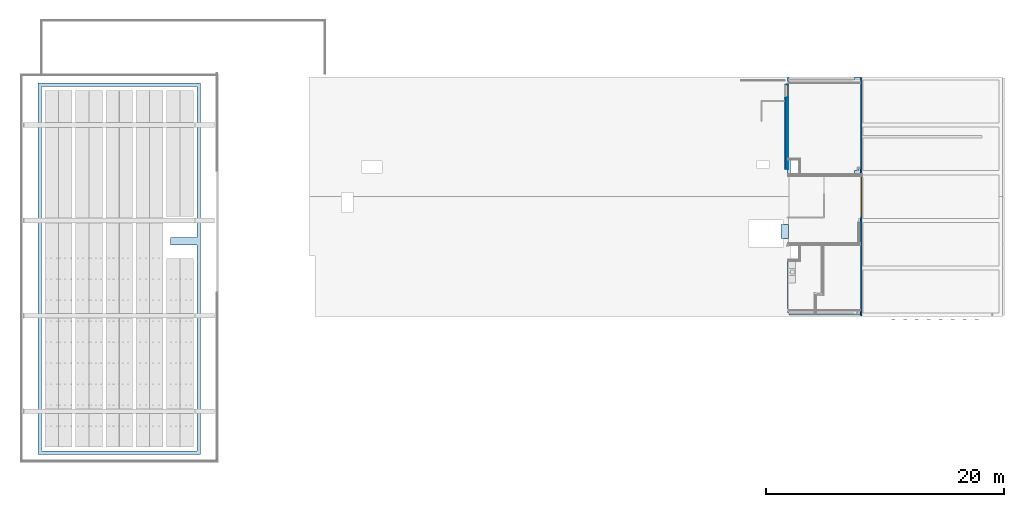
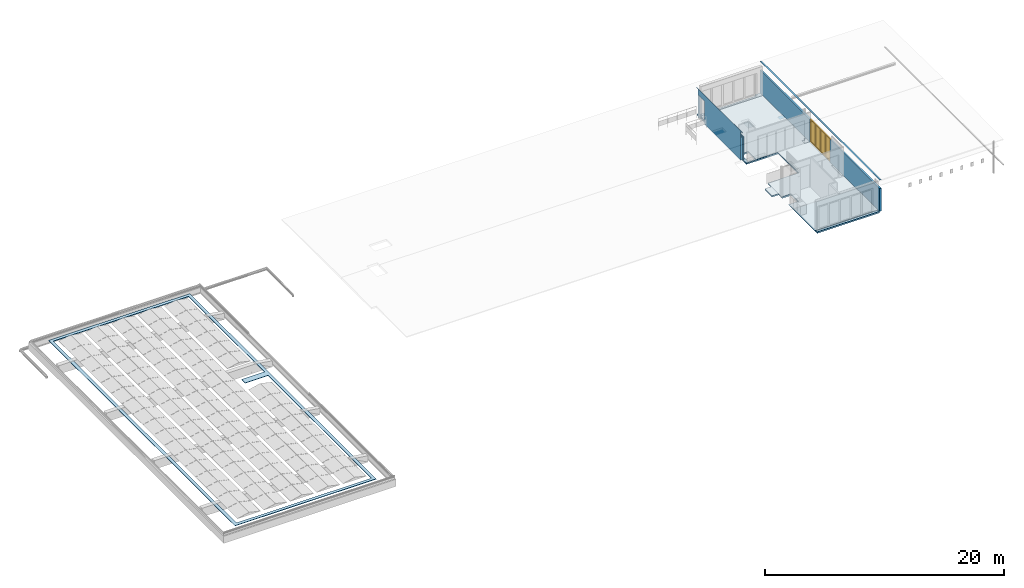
# One storey, part 7 of 25: 4 slabs, 3 walls, 1 window, 9 openings.
"""IFC2X3 building model written with IfcOpenShell, lengths in millimetres."""

from ifc_helpers import new_model, entity, si_unit, converted_unit, derived_unit, money_unit, direction, frame, origin_with_axes, place, context, subcontext, project, spatial, open_shell, faceted_brep, surface_model, material, type_object, element, fill, save


model = new_model("IFC2X3")

# Units and contexts
model_context = context("Model", 3, precision=0.01, world=origin_with_axes(), true_north=direction((0.0, 1.0)))
body_context = subcontext(model_context, "Body", "Model", "MODEL_VIEW")
ifc_project = project(units=[si_unit("LENGTHUNIT", "METRE", prefix="MILLI"), si_unit("AREAUNIT", "SQUARE_METRE"), si_unit("VOLUMEUNIT", "CUBIC_METRE"), converted_unit("PLANEANGLEUNIT", "DEGREE", entity("IfcPlaneAngleMeasure", 0.0174532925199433), si_unit("PLANEANGLEUNIT", "RADIAN"), dimensions=[0, 0, 0, 0, 0, 0, 0]), money_unit("EUR"), converted_unit("TIMEUNIT", "Year", entity("IfcTimeMeasure", 31557600.0), si_unit("TIMEUNIT", "SECOND"), dimensions=[0, 0, 1, 0, 0, 0, 0]), si_unit("MASSUNIT", "GRAM", prefix="KILO"), si_unit("THERMODYNAMICTEMPERATUREUNIT", "DEGREE_CELSIUS"), si_unit("LUMINOUSINTENSITYUNIT", "LUMEN"), si_unit("ENERGYUNIT", "JOULE", prefix="MEGA"), derived_unit("THERMALCONDUCTANCEUNIT", [(si_unit("POWERUNIT", "WATT"), 1), (si_unit("LENGTHUNIT", "METRE"), -1), (si_unit("THERMODYNAMICTEMPERATUREUNIT", "KELVIN"), -1)]), derived_unit("SPECIFICHEATCAPACITYUNIT", [(si_unit("ENERGYUNIT", "JOULE"), 1), (si_unit("MASSUNIT", "GRAM", prefix="KILO"), -1), (si_unit("THERMODYNAMICTEMPERATUREUNIT", "KELVIN"), -1)]), derived_unit("MASSDENSITYUNIT", [(si_unit("MASSUNIT", "GRAM", prefix="KILO"), 1), (si_unit("VOLUMEUNIT", "CUBIC_METRE"), -1)])], contexts=[model_context])

# Site, building, storey
site_placement = place(None, origin_with_axes())
site = spatial("IfcSite", under=ifc_project, at=site_placement, Name="<site naam>", CompositionType="ELEMENT")
building_placement = place(site_placement, origin_with_axes())
building = spatial("IfcBuilding", under=site, at=building_placement, Name="<Naam gebouw>", CompositionType="ELEMENT")
storey_placement = place(building_placement, frame((0.0, 0.0, 9563.0), z_axis=(0.0, 0.0, 1.0), x_axis=(1.0, 0.0, 0.0)))
storey = spatial("IfcBuildingStorey", under=building, at=storey_placement, Name="03 3e tussenverdieping", CompositionType="ELEMENT", Elevation=9563.0)

# Slab, opening
ifc_material_1 = material(Name="Zwevende dekvloer")
slab_type_1 = type_object("IfcSlabType", Name="Zwevende dekvloer 30", PredefinedType="NOTDEFINED")
slab_1_placement = place(storey_placement, frame((52064.99997477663, 269.0000000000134, 0.0), z_axis=(0.0, 0.0, 1.0), x_axis=(1.0, 0.0, 0.0)))
slab_1 = element("IfcSlab", 1, at=slab_1_placement, inside=storey, type_object=slab_type_1, material=ifc_material_1, Name="23_Vloer_Zwevende", PredefinedType="NOTDEFINED", context=body_context, shape_type="Brep", body=[
    faceted_brep([(6092.782828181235, 12076.00007576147, 0.0), (6092.782828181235, 12076.00007576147, -29.99999999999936), (6092.782951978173, 19271.00019144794, -29.99999999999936), (6092.782951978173, 19271.00019144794, 0.0), (5922.999839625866, 12076.00007576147, 0.0), (5922.999839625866, 12076.00007576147, -29.99999999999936), (70.00007134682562, 19461.99999999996, -29.99999999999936), (110.0000083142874, 19461.99999999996, -29.99999999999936), (110.0000083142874, 19271.00019144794, -29.99999999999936), (5922.999839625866, 11905.99989679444, -29.99999999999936), (5609.999917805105, 11905.99989679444, -29.99999999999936), (5609.999917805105, 11456.00001814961, -29.99999999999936), (6110.00013741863, 11456.00001814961, -29.99999999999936), (6110.00013741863, 7556.000103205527, -29.99999999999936), (5934.999959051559, 7556.000103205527, -29.99999999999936), (5934.999959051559, 5816.000000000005, -29.99999999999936), (6110.00013741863, 5816.000000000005, -29.99999999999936), (6110.00013741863, 0.0, -29.99999999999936), (0.0, 0.0, -29.99999999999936), (0.0, 4416.000092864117, -29.99999999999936), (960.0001084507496, 4416.000092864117, -29.99999999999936), (960.0001084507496, 5665.999916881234, -29.99999999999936), (70.00007134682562, 5665.999916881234, -29.99999999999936), (70.00007134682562, 8005.999981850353, -29.99999999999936), (3029.621820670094, 8005.999981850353, -29.99999999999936), (3029.621820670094, 11456.00001814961, -29.99999999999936), (960.0001084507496, 11456.00001814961, -29.99999999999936), (960.0001084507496, 12805.99994409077, -29.99999999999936), (70.00007134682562, 12805.99994409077, -29.99999999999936), (110.0000083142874, 19271.00019144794, 0.0), (110.0000083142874, 19461.99999999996, 0.0), (70.00007134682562, 19461.99999999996, 0.0), (70.00007134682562, 12805.99994409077, 0.0), (960.0001084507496, 12805.99994409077, 0.0), (960.0001084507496, 11456.00001814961, 0.0), (3029.621820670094, 11456.00001814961, 0.0), (3029.621820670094, 8005.999981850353, 0.0), (70.00007134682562, 8005.999981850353, 0.0), (70.00007134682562, 5665.999916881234, 0.0), (960.0001084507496, 5665.999916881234, 0.0), (960.0001084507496, 4416.000092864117, 0.0), (0.0, 4416.000092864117, 0.0), (0.0, 0.0, 0.0), (6110.00013741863, 0.0, 0.0), (6110.00013741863, 5816.000000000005, 0.0), (5934.999959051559, 5816.000000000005, 0.0), (5934.999959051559, 7556.000103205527, 0.0), (6110.00013741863, 7556.000103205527, 0.0), (6110.00013741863, 11456.00001814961, 0.0), (5609.999917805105, 11456.00001814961, 0.0), (5609.999917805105, 11905.99989679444, 0.0), (5922.999839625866, 11905.99989679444, 0.0)], [[[0, 1, 2, 3]], [[1, 0, 4, 5]], [[6, 7, 8, 2, 1, 5, 9, 10, 11, 12, 13, 14, 15, 16, 17, 18, 19, 20, 21, 22, 23, 24, 25, 26, 27, 28]], [[2, 8, 29, 3]], [[0, 3, 29, 30, 31, 32, 33, 34, 35, 36, 37, 38, 39, 40, 41, 42, 43, 44, 45, 46, 47, 48, 49, 50, 51, 4]], [[5, 4, 51, 9]], [[6, 31, 30, 7]], [[7, 30, 29, 8]], [[9, 51, 50, 10]], [[10, 50, 49, 11]], [[11, 49, 48, 12]], [[12, 48, 47, 13]], [[13, 47, 46, 14]], [[14, 46, 45, 15]], [[15, 45, 44, 16]], [[16, 44, 43, 17]], [[17, 43, 42, 18]], [[18, 42, 41, 19]], [[19, 41, 40, 20]], [[20, 40, 39, 21]], [[21, 39, 38, 22]], [[22, 38, 37, 23]], [[23, 37, 36, 24]], [[24, 36, 35, 25]], [[25, 35, 34, 26]], [[26, 34, 33, 27]], [[27, 33, 32, 28]], [[28, 32, 31, 6]]]),
])
opening_1_placement = place(slab_1_placement, frame((-52064.99997477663, -269.0000000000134, -9563.0), z_axis=(0.0, 0.0, 1.0), x_axis=(1.0, 0.0, 0.0)))
element("IfcOpeningElement", 2, at=opening_1_placement, cuts=slab_1, Name="23_Opening_", context=body_context, shape_type="Brep", body=[
    faceted_brep([(52135.00000000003, 4935.000000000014, 9593.0), (52135.00000000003, 5935.000000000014, 9593.0), (52135.00000000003, 5935.000000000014, 9503.000000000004), (52135.00000000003, 4935.000000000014, 9503.000000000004), (52735.00000000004, 4935.000000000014, 9593.0), (52735.00000000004, 5935.000000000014, 9593.0), (52735.00000000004, 5935.000000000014, 9503.000000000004), (52735.00000000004, 4935.000000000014, 9503.000000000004)], [[[0, 1, 2, 3]], [[0, 4, 5, 1]], [[1, 5, 6, 2]], [[3, 2, 6, 7]], [[4, 0, 3, 7]], [[5, 4, 7, 6]]]),
])

# Slab, openings
ifc_material_2 = material(Name="beton_gewapend_vloer C")
slab_type_2 = type_object("IfcSlabType", Name="beton_gewapend_vloer C  150", PredefinedType="NOTDEFINED")
slab_2_placement = place(storey_placement, frame((52175.00000000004, 50.04536538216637, -29.99999999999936), z_axis=(0.0, 0.0, 1.0), x_axis=(1.0, 0.0, 0.0)))
slab_2 = element("IfcSlab", 3, at=slab_2_placement, inside=storey, type_object=slab_type_2, material=ifc_material_2, Name="23_Vloer_beton_gewapend_vloer", PredefinedType="NOTDEFINED", context=body_context, shape_type="Brep", body=[
    faceted_brep([(0.0, 0.0, 0.0), (0.0, 0.0, -150.0000000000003), (5999.999999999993, 0.0, -150.0000000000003), (5999.999999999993, 0.0, 0.0), (0.0, 11674.95463461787, 0.0), (0.0, 11674.95463461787, -150.0000000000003), (-110.0000000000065, 11674.95463461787, -150.0000000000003), (-110.0000000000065, 19949.95463461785, -150.0000000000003), (5999.999999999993, 19949.95463461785, -150.0000000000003), (5999.999999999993, 19949.95463461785, 0.0), (-110.0000000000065, 19949.95463461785, 0.0), (-110.0000000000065, 11674.95463461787, 0.0)], [[[0, 1, 2, 3]], [[4, 5, 1, 0]], [[2, 1, 5, 6, 7, 8]], [[3, 2, 8, 9]], [[4, 0, 3, 9, 10, 11]], [[11, 6, 5, 4]], [[10, 7, 6, 11]], [[9, 8, 7, 10]]]),
])
opening_2_placement = place(slab_2_placement, frame((-52175.00000000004, -50.04536538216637, -9533.000000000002), z_axis=(0.0, 0.0, 1.0), x_axis=(1.0, 0.0, 0.0)))
element("IfcOpeningElement", 4, at=opening_2_placement, cuts=slab_2, Name="23_Opening_", context=body_context, shape_type="Brep", body=[
    faceted_brep([(52325.00000000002, 11875.00000000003, 9683.000000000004), (52325.00000000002, 13075.00000000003, 9683.000000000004), (52325.00000000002, 13075.00000000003, 9233.0), (52325.00000000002, 11875.00000000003, 9233.0), (53025.00000000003, 11875.00000000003, 9683.000000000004), (53025.00000000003, 13075.00000000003, 9683.000000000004), (53025.00000000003, 13075.00000000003, 9233.0), (53025.00000000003, 11875.00000000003, 9233.0)], [[[0, 1, 2, 3]], [[0, 4, 5, 1]], [[1, 5, 6, 2]], [[3, 2, 6, 7]], [[4, 0, 3, 7]], [[5, 4, 7, 6]]]),
])
opening_3_placement = place(slab_2_placement, frame((-52175.00000000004, -50.04536538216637, -9533.000000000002), z_axis=(0.0, 0.0, 1.0), x_axis=(1.0, 0.0, 0.0)))
element("IfcOpeningElement", 5, at=opening_3_placement, cuts=slab_2, Name="23_Opening_", context=body_context, shape_type="Brep", body=[
    faceted_brep([(52175.00000000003, 8275.000000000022, 9683.000000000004), (52175.00000000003, 11725.00000000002, 9683.000000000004), (52175.00000000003, 11725.00000000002, 9233.0), (52175.00000000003, 8275.000000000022, 9233.0), (55142.12178525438, 8275.000000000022, 9683.000000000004), (55142.12178525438, 11725.00000000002, 9683.000000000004), (55142.12178525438, 11725.00000000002, 9233.0), (55142.12178525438, 8275.000000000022, 9233.0)], [[[0, 1, 2, 3]], [[0, 4, 5, 1]], [[1, 5, 6, 2]], [[3, 2, 6, 7]], [[4, 0, 3, 7]], [[5, 4, 7, 6]]]),
])
opening_4_placement = place(slab_2_placement, frame((-52175.00000000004, -50.04536538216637, -9533.000000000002), z_axis=(0.0, 0.0, 1.0), x_axis=(1.0, 0.0, 0.0)))
element("IfcOpeningElement", 6, at=opening_4_placement, cuts=slab_2, Name="23_Opening_", context=body_context, shape_type="Brep", body=[
    faceted_brep([(52135.00000000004, 4685.000000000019, 9683.000000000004), (52135.00000000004, 5935.000000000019, 9683.000000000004), (52135.00000000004, 5935.000000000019, 9233.0), (52135.00000000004, 4685.000000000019, 9233.0), (53025.00000000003, 4685.000000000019, 9683.000000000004), (53025.00000000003, 5935.000000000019, 9683.000000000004), (53025.00000000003, 5935.000000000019, 9233.0), (53025.00000000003, 4685.000000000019, 9233.0)], [[[0, 1, 2, 3]], [[0, 4, 5, 1]], [[1, 5, 6, 2]], [[3, 2, 6, 7]], [[4, 0, 3, 7]], [[5, 4, 7, 6]]]),
])
opening_5_placement = place(slab_2_placement, frame((-52175.00000000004, -50.04536538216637, -9533.000000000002), z_axis=(0.0, 0.0, 1.0), x_axis=(1.0, 0.0, 0.0)))
element("IfcOpeningElement", 7, at=opening_5_placement, cuts=slab_2, Name="23_Opening_", context=body_context, shape_type="Brep", body=[
    faceted_brep([(52175.00000000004, 19825.00000000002, 9533.000000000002), (52175.00000000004, 19999.99992132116, 9533.000000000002), (52175.00000000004, 19999.99992132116, 9383.0), (52175.00000000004, 19825.00000000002, 9383.0), (57674.9999269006, 19825.00000000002, 9533.000000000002), (57674.9999269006, 19999.99992132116, 9533.000000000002), (57674.9999269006, 19999.99992132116, 9383.0), (57674.9999269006, 19825.00000000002, 9383.0)], [[[0, 1, 2, 3]], [[0, 4, 5, 1]], [[1, 5, 6, 2]], [[3, 2, 6, 7]], [[4, 0, 3, 7]], [[5, 4, 7, 6]]]),
])
opening_6_placement = place(slab_2_placement, frame((-52175.00000000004, -50.04536538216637, -9533.000000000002), z_axis=(0.0, 0.0, 1.0), x_axis=(1.0, 0.0, 0.0)))
element("IfcOpeningElement", 8, at=opening_6_placement, cuts=slab_2, Name="23_Opening_", context=body_context, shape_type="Brep", body=[
    faceted_brep([(52175.00000000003, 20000.00000000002, 9533.000000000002), (52175.00000000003, 20290.62140104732, 9533.000000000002), (52175.00000000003, 20290.62140104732, 9383.0), (52175.00000000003, 20000.00000000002, 9383.0), (57674.99992690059, 20000.00000000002, 9533.000000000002), (57674.99992690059, 20290.62140104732, 9533.000000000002), (57674.99992690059, 20290.62140104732, 9383.0), (57674.99992690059, 20000.00000000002, 9383.0)], [[[0, 1, 2, 3]], [[0, 4, 5, 1]], [[1, 5, 6, 2]], [[3, 2, 6, 7]], [[4, 0, 3, 7]], [[5, 4, 7, 6]]]),
])

# Slabs
slab_3_placement = place(storey_placement, frame((51500.00000000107, 6475.000000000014, 0.0), z_axis=(0.0, 0.0, 1.0), x_axis=(1.0, 0.0, 0.0)))
element("IfcSlab", 9, at=slab_3_placement, inside=storey, type_object=slab_type_2, material=ifc_material_2, Name="23_Vloer_beton_gewapend_vloer", PredefinedType="NOTDEFINED", context=body_context, shape_type="Brep", body=[
    faceted_brep([(0.0, 0.0, 0.0), (0.0, 0.0, -150.0000000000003), (634.9999999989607, 0.0, -150.0000000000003), (634.9999999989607, 0.0, 0.0), (0.0, 1200.0, 0.0), (0.0, 1200.0, -150.0000000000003), (634.9999999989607, 1200.0, -150.0000000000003), (634.9999999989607, 1200.0, 0.0)], [[[0, 1, 2, 3]], [[4, 5, 1, 0]], [[2, 1, 5, 6]], [[3, 2, 6, 7]], [[4, 0, 3, 7]], [[7, 6, 5, 4]]]),
])
ifc_material_3 = material(Name="ALG - ALGEMEEN")
slab_type_3 = type_object("IfcSlabType", Name="ALG - ALGEMEEN 45", PredefinedType="NOTDEFINED")
slab_4_placement = place(storey_placement, frame((2820.499997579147, 19550.88304854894, -912.2832737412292), z_axis=(0.0, 0.0, 1.0), x_axis=(1.0, 0.0, 0.0)))
element("IfcSlab", 10, at=slab_4_placement, inside=storey, type_object=slab_type_3, material=ifc_material_3, Name="47_Vloer_ALG", PredefinedType="NOTDEFINED", context=body_context, shape_type="Brep", body=[
    faceted_brep([(0.0, 0.0, 45.00000000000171), (0.0, 0.0, 0.0), (-13641.04965521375, 0.0, 0.0), (-13641.04965521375, 0.0, 45.00000000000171), (0.0, -31199.94177173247, 45.00000000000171), (0.0, -31199.94177173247, 0.0), (-13641.04965521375, -31199.94177173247, 0.0), (-13341.02557208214, -299.9580797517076, 0.0), (-13341.02557208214, -30899.96328707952, 0.0), (-299.9744230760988, -30899.96328707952, 0.0), (-299.9744230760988, -13600.00336167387, 0.0), (-2520.499997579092, -13600.00336167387, 0.0), (-2520.499997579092, -12999.9830485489, 0.0), (-299.9744230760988, -12999.9830485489, 0.0), (-299.9744230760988, -299.9580797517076, 0.0), (-13641.04965521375, -31199.94177173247, 45.00000000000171), (-299.9744230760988, -30899.96328707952, 45.00000000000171), (-13341.02557208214, -30899.96328707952, 45.00000000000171), (-13341.02557208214, -299.9580797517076, 45.00000000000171), (-299.9744230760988, -299.9580797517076, 45.00000000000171), (-299.9744230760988, -12999.9830485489, 45.00000000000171), (-2520.499997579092, -12999.9830485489, 45.00000000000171), (-2520.499997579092, -13600.00336167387, 45.00000000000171), (-299.9744230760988, -13600.00336167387, 45.00000000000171)], [[[0, 1, 2, 3]], [[4, 5, 1, 0]], [[2, 1, 5, 6], [7, 8, 9, 10, 11, 12, 13, 14]], [[3, 2, 6, 15]], [[4, 0, 3, 15], [16, 17, 18, 19, 20, 21, 22, 23]], [[15, 6, 5, 4]], [[17, 8, 7, 18]], [[16, 9, 8, 17]], [[23, 10, 9, 16]], [[22, 11, 10, 23]], [[21, 12, 11, 22]], [[20, 13, 12, 21]], [[19, 14, 13, 20]], [[18, 7, 14, 19]]]),
])

# Wall, opening
ifc_material_4 = material(Name="beton_gewapend C")
wall_type_1 = type_object("IfcWallType", Name="beton 160 160", PredefinedType="NOTDEFINED")
wall_1_placement = place(storey_placement, frame((51985.00000000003, 19685.91067811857, 0.0), z_axis=(0.0, 0.0, 1.0), x_axis=(0.0, -1.0, 0.0)))
wall_1 = element("IfcWall", 11, at=wall_1_placement, inside=storey, type_object=wall_type_1, material=ifc_material_4, Name="22_Binnenwand_beton", context=body_context, shape_type="Brep", body=[
    faceted_brep([(274.9999999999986, 0.0, 2327.0), (274.9999999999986, -129.9999999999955, 2327.0), (7410.910678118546, -129.9999999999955, 2327.0), (7410.910678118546, 0.0, 2327.0), (274.9999999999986, -159.9999999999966, 2927.0), (274.9999999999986, -129.9999999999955, 2927.0), (274.9999999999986, 0.0, 0.0), (274.9999999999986, -159.9999999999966, 0.0), (7685.910678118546, -129.9999999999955, 2987.000014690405), (7685.910678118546, -129.9999999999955, 2927.0), (7410.910678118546, -129.9999999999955, 2927.0), (0.0, -129.9999999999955, 2927.0), (0.0, -129.9999999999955, 2987.000014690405), (7410.910678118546, -159.9999999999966, 2927.0), (7410.910678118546, -159.9999999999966, 0.0), (7410.910678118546, 0.0, 0.0), (0.0, -159.9999999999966, 2927.0), (7685.910678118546, -159.9999999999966, 2927.0), (7685.910678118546, -160.0000000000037, 2987.000014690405), (0.0, -159.9999999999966, 2987.000014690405)], [[[0, 1, 2, 3]], [[4, 5, 1, 0, 6, 7]], [[8, 9, 10, 2, 1, 5, 11, 12]], [[13, 14, 15, 3, 2, 10]], [[6, 0, 3, 15]], [[5, 4, 16, 11]], [[7, 6, 15, 14]], [[7, 14, 13, 17, 18, 19, 16, 4]], [[8, 18, 17, 9]], [[17, 13, 10, 9]], [[19, 12, 11, 16]], [[12, 19, 18, 8]]]),
])
opening_7_placement = place(wall_1_placement, frame((817.8526862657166, 0.0, 0.0), z_axis=(0.0, 0.0, 1.0), x_axis=(1.0, 0.0, 0.0)))
element("IfcOpeningElement", 12, at=opening_7_placement, cuts=wall_1, Name="22_BI-A-06 sp_305", context=body_context, shape_type="Brep", body=[
    faceted_brep([(516.9999999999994, 0.9999999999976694, 2366.999999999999), (516.9999999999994, 0.9999999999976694, 0.0), (-516.9999999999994, 0.9999999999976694, 0.0), (-516.9999999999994, 0.9999999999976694, 2366.999999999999), (516.9999999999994, -160.9999999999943, 2366.999999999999), (516.9999999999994, -160.9999999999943, 0.0), (-516.9999999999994, -160.9999999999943, 0.0), (-516.9999999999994, -160.9999999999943, 2366.999999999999)], [[[0, 1, 2, 3]], [[4, 5, 1, 0]], [[5, 6, 2, 1]], [[6, 7, 3, 2]], [[7, 4, 0, 3]], [[6, 5, 4, 7]]]),
])

# Wall, opening, window
ifc_material_5 = material(Name="beton")
wall_type_2 = type_object("IfcWallType", Name="beton 160", PredefinedType="NOTDEFINED")
wall_2_placement = place(storey_placement, frame((58317.78284470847, 20000.00000000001, 0.0), z_axis=(0.0, 0.0, 1.0), x_axis=(0.0, -1.0, 0.0)))
wall_2 = element("IfcWall", 13, at=wall_2_placement, inside=storey, type_object=wall_type_2, material=ifc_material_5, Name="22_Binnenwand_beton", context=body_context, shape_type="Brep", body=[
    faceted_brep([(0.0, 0.0, 0.0), (0.0, -159.9999999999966, 0.0), (0.0, -159.9999999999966, 2327.000000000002), (0.0, 0.0, 2327.000000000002), (20000.0, 0.0, 0.0), (20000.0, -160.0000000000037, 0.0), (20000.0, -160.0000000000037, 2327.000000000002), (20000.0, 0.0, 2327.000000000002), (5085.249999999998, 0.0, 2327.000000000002), (4865.25, 0.0, 2327.000000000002)], [[[0, 1, 2, 3]], [[4, 5, 1, 0]], [[1, 5, 6, 2]], [[7, 8, 9, 3, 2, 6]], [[3, 9, 8, 7, 4, 0]], [[5, 4, 7, 6]]]),
    faceted_brep([(0.0, 0.0, 3206.999999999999), (20000.0, 0.0, 3206.999999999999), (20000.0, 0.0, 3177.0), (0.0, 0.0, 3177.0), (20000.0, -160.0000000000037, 3206.999999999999), (0.0, -159.9999999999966, 3206.999999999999), (20000.0, -160.0000000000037, 3177.0), (0.0, -159.9999999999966, 3177.0)], [[[0, 1, 2, 3]], [[4, 1, 0, 5]], [[1, 4, 6, 2]], [[2, 6, 7, 3]], [[5, 0, 3, 7]], [[4, 5, 7, 6]]]),
])
opening_8_placement = place(wall_2_placement, frame((9999.999999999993, 0.0, 0.0), z_axis=(0.0, 0.0, 1.0), x_axis=(1.0, 0.0, 0.0)))
opening_8 = element("IfcOpeningElement", 14, at=opening_8_placement, cuts=wall_2, Name="22_BI-E-14_305", context=body_context, shape_type="Brep", body=[
    faceted_brep([(-1725.0, -160.9999999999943, 2366.999999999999), (-1725.0, -160.9999999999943, 0.0), (1725.0, -161.0000000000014, 0.0), (1725.0, -161.0000000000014, 2366.999999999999), (-1725.0, 0.9999999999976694, 2366.999999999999), (-1725.0, 0.9999999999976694, 0.0), (1725.0, 0.999999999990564, 0.0), (1725.0, 0.999999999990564, 2366.999999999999)], [[[0, 1, 2, 3]], [[4, 5, 1, 0]], [[5, 6, 2, 1]], [[6, 7, 3, 2]], [[7, 4, 0, 3]], [[6, 5, 4, 7]]]),
])
window_style = type_object("IfcWindowStyle", Name="Rnx horizontaal 27", ConstructionType="NOTDEFINED", OperationType="USERDEFINED", ParameterTakesPrecedence=False, Sizeable=False)
window_placement = place(opening_8_placement, frame((-1725.0, 0.0, 0.0), z_axis=(0.0, 0.0, 1.0), x_axis=(1.0, 0.0, 0.0)))
window = element("IfcWindow", 15, at=window_placement, inside=storey, type_object=window_style, Name="22_BI-E-14_305", ObjectType="WINDOW", OverallHeight=2367.0, OverallWidth=3450.0, context=body_context, shape_type="SurfaceModel", body=[
    faceted_brep([(0.0, -113.9999999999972, 2327.0), (0.0, 0.0, 2327.0), (0.0, 0.0, 2299.999999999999), (0.0, -113.9999999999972, 2299.999999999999), (3449.999999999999, 0.0, 2327.0), (3449.999999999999, -113.9999999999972, 2327.0), (3449.999999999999, 0.0, 2299.999999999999), (3382.999999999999, 0.0, 2299.999999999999), (2604.249999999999, 0.0, 2299.999999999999), (2537.249999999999, 0.0, 2299.999999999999), (1758.5, 0.0, 2299.999999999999), (1691.5, 0.0, 2299.999999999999), (912.7499999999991, 0.0, 2299.999999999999), (845.7499999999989, 0.0, 2299.999999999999), (67.00000000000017, 0.0, 2299.999999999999), (67.00000000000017, -113.9999999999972, 2299.999999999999), (845.7499999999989, -113.9999999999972, 2299.999999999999), (912.7499999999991, -113.9999999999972, 2299.999999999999), (1691.5, -113.9999999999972, 2299.999999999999), (1758.5, -113.9999999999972, 2299.999999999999), (2537.249999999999, -113.9999999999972, 2299.999999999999), (2604.249999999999, -113.9999999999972, 2299.999999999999), (3382.999999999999, -113.9999999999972, 2299.999999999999), (3449.999999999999, -113.9999999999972, 2299.999999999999)], [[[0, 1, 2, 3]], [[4, 1, 0, 5]], [[1, 4, 6, 7, 8, 9, 10, 11, 12, 13, 14, 2]], [[15, 3, 2, 14]], [[5, 0, 3, 15, 16, 17, 18, 19, 20, 21, 22, 23]], [[4, 5, 23, 6]], [[23, 22, 7, 6]], [[22, 21, 8, 7]], [[21, 20, 9, 8]], [[20, 19, 10, 9]], [[19, 18, 11, 10]], [[18, 17, 12, 11]], [[17, 16, 13, 12]], [[16, 15, 14, 13]]]),
    faceted_brep([(67.00000000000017, -113.9999999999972, 2299.999999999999), (67.00000000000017, 0.0, 2299.999999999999), (0.0, 0.0, 2299.999999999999), (0.0, -113.9999999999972, 2299.999999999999), (67.00000000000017, -113.9999999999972, 67.00000000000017), (67.00000000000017, 0.0, 67.00000000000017), (0.0, 0.0, 67.00000000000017), (0.0, -113.9999999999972, 67.00000000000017)], [[[0, 1, 2, 3]], [[4, 5, 1, 0]], [[1, 5, 6, 2]], [[3, 2, 6, 7]], [[0, 3, 7, 4]], [[7, 6, 5, 4]]]),
    faceted_brep([(3382.999999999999, -113.9999999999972, 67.00000000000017), (3382.999999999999, 0.0, 67.00000000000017), (3449.999999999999, 0.0, 67.00000000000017), (3449.999999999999, -113.9999999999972, 67.00000000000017), (3382.999999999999, -113.9999999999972, 2299.999999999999), (3382.999999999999, 0.0, 2299.999999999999), (3449.999999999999, 0.0, 2299.999999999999), (3449.999999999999, -113.9999999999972, 2299.999999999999)], [[[0, 1, 2, 3]], [[4, 5, 1, 0]], [[1, 5, 6, 2]], [[3, 2, 6, 7]], [[0, 3, 7, 4]], [[7, 6, 5, 4]]]),
    faceted_brep([(2604.249999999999, -113.9999999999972, 67.00000000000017), (2604.249999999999, 0.0, 67.00000000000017), (2537.249999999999, 0.0, 67.00000000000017), (2537.249999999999, -113.9999999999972, 67.00000000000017), (3382.999999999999, -113.9999999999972, 67.00000000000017), (3382.999999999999, 0.0, 67.00000000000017), (3449.999999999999, 0.0, 67.00000000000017), (3449.999999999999, 0.0, 0.0), (0.0, 0.0, 0.0), (0.0, 0.0, 67.00000000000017), (67.00000000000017, 0.0, 67.00000000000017), (845.7499999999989, 0.0, 67.00000000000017), (912.7499999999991, 0.0, 67.00000000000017), (1691.5, 0.0, 67.00000000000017), (1758.5, 0.0, 67.00000000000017), (1758.5, -113.9999999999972, 67.00000000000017), (1691.5, -113.9999999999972, 67.00000000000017), (912.7499999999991, -113.9999999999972, 67.00000000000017), (845.7499999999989, -113.9999999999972, 67.00000000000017), (67.00000000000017, -113.9999999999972, 67.00000000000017), (0.0, -113.9999999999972, 67.00000000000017), (0.0, -113.9999999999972, 0.0), (3449.999999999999, -113.9999999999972, 0.0), (3449.999999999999, -113.9999999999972, 67.00000000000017)], [[[0, 1, 2, 3]], [[4, 5, 1, 0]], [[1, 5, 6, 7, 8, 9, 10, 11, 12, 13, 14, 2]], [[3, 2, 14, 15]], [[0, 3, 15, 16, 17, 18, 19, 20, 21, 22, 23, 4]], [[23, 6, 5, 4]], [[22, 7, 6, 23]], [[21, 8, 7, 22]], [[20, 9, 8, 21]], [[19, 10, 9, 20]], [[18, 11, 10, 19]], [[17, 12, 11, 18]], [[16, 13, 12, 17]], [[15, 14, 13, 16]]]),
    faceted_brep([(912.7499999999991, -113.9999999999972, 67.00000000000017), (912.7499999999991, 0.0, 67.00000000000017), (912.7499999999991, 0.0, 2299.999999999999), (912.7499999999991, -113.9999999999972, 2299.999999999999), (845.7499999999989, -113.9999999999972, 67.00000000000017), (845.7499999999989, 0.0, 67.00000000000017), (845.7499999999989, 0.0, 2299.999999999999), (845.7499999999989, -113.9999999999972, 2299.999999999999)], [[[0, 1, 2, 3]], [[4, 5, 1, 0]], [[1, 5, 6, 2]], [[3, 2, 6, 7]], [[0, 3, 7, 4]], [[7, 6, 5, 4]]]),
    faceted_brep([(1758.5, -113.9999999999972, 67.00000000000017), (1758.5, 0.0, 67.00000000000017), (1758.5, 0.0, 2299.999999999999), (1758.5, -113.9999999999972, 2299.999999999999), (1691.5, -113.9999999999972, 67.00000000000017), (1691.5, 0.0, 67.00000000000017), (1691.5, 0.0, 2299.999999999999), (1691.5, -113.9999999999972, 2299.999999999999)], [[[0, 1, 2, 3]], [[4, 5, 1, 0]], [[1, 5, 6, 2]], [[3, 2, 6, 7]], [[0, 3, 7, 4]], [[7, 6, 5, 4]]]),
    faceted_brep([(2604.249999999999, -113.9999999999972, 67.00000000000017), (2604.249999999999, 0.0, 67.00000000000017), (2604.249999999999, 0.0, 2299.999999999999), (2604.249999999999, -113.9999999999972, 2299.999999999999), (2537.249999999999, -113.9999999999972, 67.00000000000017), (2537.249999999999, 0.0, 67.00000000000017), (2537.249999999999, 0.0, 2299.999999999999), (2537.249999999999, -113.9999999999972, 2299.999999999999)], [[[0, 1, 2, 3]], [[4, 5, 1, 0]], [[1, 5, 6, 2]], [[3, 2, 6, 7]], [[0, 3, 7, 4]], [[7, 6, 5, 4]]]),
    surface_model("IfcShellBasedSurfaceModel", [(67.00000000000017, -64.00000000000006, 67.00000000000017), (845.7499999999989, -64.00000000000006, 67.00000000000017), (845.7499999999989, -64.00000000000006, 2300.000000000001), (67.00000000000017, -64.00000000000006, 2300.000000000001)], [open_shell([[[0, 1, 2, 3]]])]),
    surface_model("IfcShellBasedSurfaceModel", [(67.00000000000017, -43.99999999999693, 67.00000000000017), (67.00000000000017, -43.99999999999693, 2300.000000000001), (845.7499999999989, -43.99999999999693, 2300.000000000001), (845.7499999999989, -43.99999999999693, 67.00000000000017)], [open_shell([[[0, 1, 2, 3]]])]),
    surface_model("IfcShellBasedSurfaceModel", [(912.7499999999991, -64.00000000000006, 67.00000000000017), (1691.5, -64.00000000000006, 67.00000000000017), (1691.5, -64.00000000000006, 2300.000000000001), (912.7499999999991, -64.00000000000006, 2300.000000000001)], [open_shell([[[0, 1, 2, 3]]])]),
    surface_model("IfcShellBasedSurfaceModel", [(912.7499999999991, -43.99999999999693, 67.00000000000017), (912.7499999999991, -43.99999999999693, 2300.000000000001), (1691.5, -43.99999999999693, 2300.000000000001), (1691.5, -43.99999999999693, 67.00000000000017)], [open_shell([[[0, 1, 2, 3]]])]),
    surface_model("IfcShellBasedSurfaceModel", [(1758.5, -64.00000000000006, 67.00000000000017), (2537.249999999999, -64.00000000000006, 67.00000000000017), (2537.249999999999, -64.00000000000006, 2300.000000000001), (1758.5, -64.00000000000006, 2300.000000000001)], [open_shell([[[0, 1, 2, 3]]])]),
    surface_model("IfcShellBasedSurfaceModel", [(1758.5, -43.99999999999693, 67.00000000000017), (1758.5, -43.99999999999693, 2300.000000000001), (2537.249999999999, -43.99999999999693, 2300.000000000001), (2537.249999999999, -43.99999999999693, 67.00000000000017)], [open_shell([[[0, 1, 2, 3]]])]),
    surface_model("IfcShellBasedSurfaceModel", [(2604.249999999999, -64.00000000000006, 67.00000000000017), (3382.999999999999, -64.00000000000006, 67.00000000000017), (3382.999999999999, -64.00000000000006, 2300.000000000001), (2604.249999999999, -64.00000000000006, 2300.000000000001)], [open_shell([[[0, 1, 2, 3]]])]),
    surface_model("IfcShellBasedSurfaceModel", [(2604.249999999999, -43.99999999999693, 67.00000000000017), (2604.249999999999, -43.99999999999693, 2300.000000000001), (3382.999999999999, -43.99999999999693, 2300.000000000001), (3382.999999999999, -43.99999999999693, 67.00000000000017)], [open_shell([[[0, 1, 2, 3]]])]),
])
fill(opening_8, window)

# Wall, opening
ifc_material_6 = material(Name="metal_stud")
wall_type_3 = type_object("IfcWallType", Name="metalstud 70 70", PredefinedType="NOTDEFINED")
wall_3_placement = place(storey_placement, frame((52135.00000000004, 11725.00000000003, 0.0), z_axis=(0.0, 0.0, 1.0), x_axis=(0.0, 1.0, 0.0)))
wall_3 = element("IfcWall", 16, at=wall_3_placement, inside=storey, type_object=wall_type_3, material=ifc_material_6, Name="22_Binnenwand_metalstud", context=body_context, shape_type="Brep", body=[
    faceted_brep([(549.9999999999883, 0.0, 0.0), (7685.910678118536, 0.0, 0.0), (7685.910678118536, 0.0, 2327.0), (549.9999999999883, 0.0, 2327.0), (549.9999999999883, 70.00000000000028, 0.0), (7685.910678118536, 70.00000000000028, 0.0), (7685.910678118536, 70.00000000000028, 2327.0), (549.9999999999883, 70.00000000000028, 2327.0)], [[[0, 1, 2, 3]], [[4, 5, 1, 0]], [[5, 6, 2, 1]], [[3, 2, 6, 7]], [[4, 0, 3, 7]], [[7, 6, 5, 4]]]),
])
opening_9_placement = place(wall_3_placement, frame((7143.057991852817, 0.0, 0.0), z_axis=(0.0, 0.0, 1.0), x_axis=(1.0, 0.0, 0.0)))
element("IfcOpeningElement", 17, at=opening_9_placement, cuts=wall_3, Name="22_BI-A-06 sp_305", context=body_context, shape_type="Brep", body=[
    faceted_brep([(516.9999999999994, 70.99999999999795, 2299.999999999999), (516.9999999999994, 70.99999999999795, 0.0), (-516.9999999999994, 70.99999999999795, 0.0), (-516.9999999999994, 70.99999999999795, 2299.999999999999), (516.9999999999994, -0.9999999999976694, 2299.999999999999), (516.9999999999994, -0.9999999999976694, 0.0), (-516.9999999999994, -0.9999999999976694, 0.0), (-516.9999999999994, -0.9999999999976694, 2299.999999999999)], [[[0, 1, 2, 3]], [[4, 5, 1, 0]], [[5, 6, 2, 1]], [[6, 7, 3, 2]], [[7, 4, 0, 3]], [[6, 5, 4, 7]]]),
])

save(model, "model.ifc")
